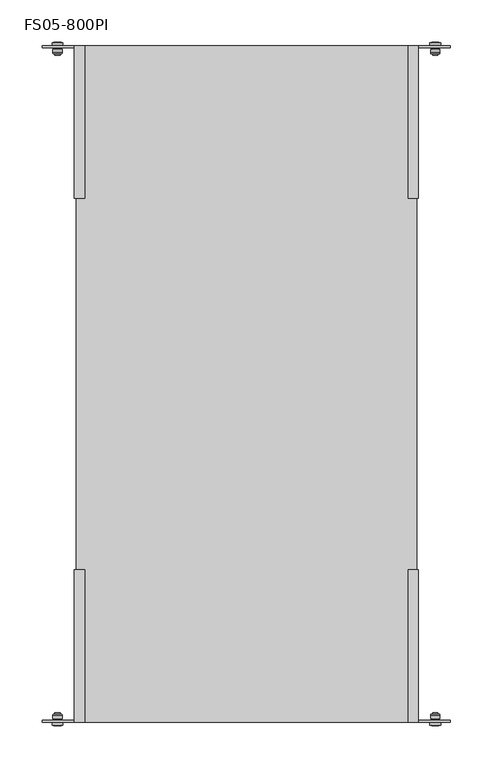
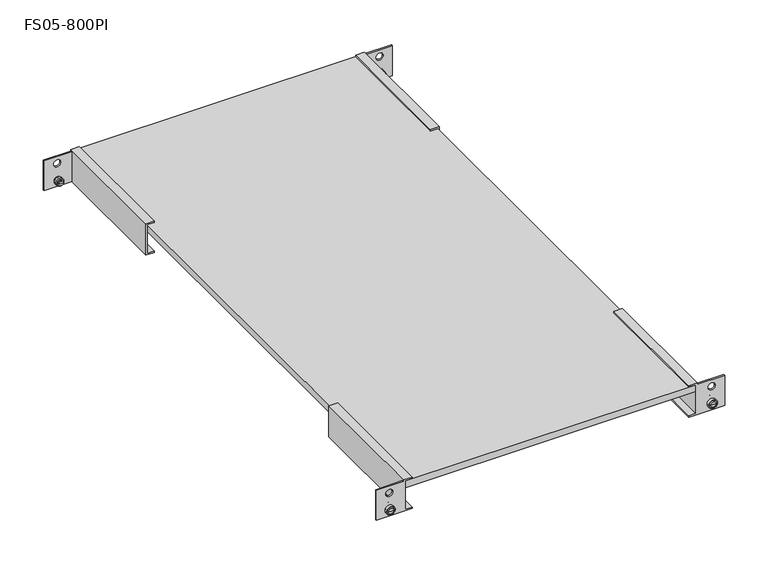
"""IFC4 building model written with IfcOpenShell, lengths in millimetres: proxy geometry, Полки стационарные универсальные : FS05-800PI."""

from ifc_helpers import new_model, si_unit, point, frame, origin, place, context, project, spatial, polyline, circle_curve, ellipse_curve, trimmed, outline, extrude, source, transform, mapped, element, save
from ifc_brep_helpers import plane_surface, cylinder_surface, revolved_surface, advanced_brep


def fs05_800pi_de279b3e(model_context):
    return source(origin(), model_context, "Body", "SolidModel", [
        advanced_brep(
        [(223.4822805, 404.3499926, 10.0), (219.9883481, 404.3499926, 10.0), (226.9762128, 404.3499926, 10.0), (226.4822791, 388.7499968, 10.0), (220.4822818, 388.7499968, 10.0), (223.4822805, 388.7499968, 10.0), (226.4822791, 390.7999942, 10.0), (220.4822818, 390.7999942, 10.0), (227.9855464, 390.7999942, 10.0), (218.9790145, 390.7999942, 10.0), (228.9822767, 391.7967245, 10.0), (217.9822842, 391.7967245, 10.0), (228.9822767, 395.8, 10.0), (217.9822842, 395.8, 10.0), (227.6556322, 398.0, 10.0), (219.3089288, 398.0, 10.0), (227.6556322, 400.0, 10.0), (219.3089288, 400.0, 10.0), (229.732282, 400.0, 10.0), (217.232279, 400.0, 10.0), (229.732282, 403.5000006, 10.0), (217.232279, 403.5000006, 10.0), (228.8604456, 403.5000006, 10.0), (218.1041154, 403.5000006, 10.0)],
        [
            (0, 1),
            (1, 2, circle_curve(frame((223.4822805, 404.3499926, 10.0), z_axis=(0.0, 1.0, 0.0), x_axis=(-1.0, 0.0, 0.0)), 3.4939324)),
            (2, 0),
            (2, 1, circle_curve(frame((223.4822805, 404.3499926, 10.0), z_axis=(0.0, 1.0, 0.0), x_axis=(-1.0, 0.0, 0.0)), 3.4939324)),
            (3, 4, circle_curve(frame((223.4822805, 388.7499968, 10.0), z_axis=(0.0, -1.0, 0.0), x_axis=(-1.0, 0.0, 0.0)), 2.9999986)),
            (4, 5),
            (5, 3),
            (4, 3, circle_curve(frame((223.4822805, 388.7499968, 10.0), z_axis=(0.0, -1.0, 0.0), x_axis=(-1.0, 0.0, 0.0)), 2.9999986)),
            (6, 7, circle_curve(frame((223.4822805, 390.7999942, 10.0), z_axis=(0.0, -1.0, 0.0), x_axis=(-1.0, 0.0, 0.0)), 2.9999986)),
            (7, 4),
            (3, 6),
            (7, 6, circle_curve(frame((223.4822805, 390.7999942, 10.0), z_axis=(0.0, -1.0, 0.0), x_axis=(-1.0, 0.0, 0.0)), 2.9999986)),
            (8, 9, circle_curve(frame((223.4822805, 390.7999942, 10.0), z_axis=(0.0, -1.0, 0.0), x_axis=(-1.0, 0.0, 0.0)), 4.503266)),
            (9, 7),
            (6, 8),
            (9, 8, circle_curve(frame((223.4822805, 390.7999942, 10.0), z_axis=(0.0, -1.0, 0.0), x_axis=(-1.0, 0.0, 0.0)), 4.503266)),
            (10, 11, circle_curve(frame((223.4822805, 391.7967245, 10.0), z_axis=(0.0, -1.0, 0.0), x_axis=(-1.0, 0.0, 0.0)), 5.4999962)),
            (11, 9, circle_curve(frame((218.9790145, 391.7967245, 10.0), z_axis=(0.0, 0.0, 1.0), x_axis=(1.0, 0.0, 0.0)), 0.9967303)),
            (8, 10, circle_curve(frame((227.9855464, 391.7967245, 10.0), z_axis=(0.0, 0.0, 1.0), x_axis=(-1.0, 0.0, 0.0)), 0.9967303)),
            (11, 10, circle_curve(frame((223.4822805, 391.7967245, 10.0), z_axis=(0.0, -1.0, 0.0), x_axis=(-1.0, 0.0, 0.0)), 5.4999962)),
            (12, 13, circle_curve(frame((223.4822805, 395.8, 10.0), z_axis=(0.0, -1.0, 0.0), x_axis=(-1.0, 0.0, 0.0)), 5.4999962)),
            (13, 11),
            (10, 12),
            (13, 12, circle_curve(frame((223.4822805, 395.8, 10.0), z_axis=(0.0, -1.0, 0.0), x_axis=(-1.0, 0.0, 0.0)), 5.4999962)),
            (14, 15, circle_curve(frame((223.4822805, 398.0, 10.0), z_axis=(0.0, -1.0, 0.0), x_axis=(-1.0, 0.0, 0.0)), 4.1733517)),
            (15, 13, circle_curve(frame((217.9822789, 397.3, 10.0), z_axis=(0.0, 0.0, -1.0), x_axis=(1.0, 0.0, 0.0)), 1.5)),
            (12, 14, circle_curve(frame((228.9822821, 397.3, 10.0), z_axis=(0.0, 0.0, -1.0), x_axis=(-1.0, 0.0, 0.0)), 1.5)),
            (15, 14, circle_curve(frame((223.4822805, 398.0, 10.0), z_axis=(0.0, -1.0, 0.0), x_axis=(-1.0, 0.0, 0.0)), 4.1733517)),
            (16, 17, circle_curve(frame((223.4822805, 400.0, 10.0), z_axis=(0.0, -1.0, 0.0), x_axis=(-1.0, 0.0, 0.0)), 4.1733517)),
            (17, 15),
            (14, 16),
            (17, 16, circle_curve(frame((223.4822805, 400.0, 10.0), z_axis=(0.0, -1.0, 0.0), x_axis=(-1.0, 0.0, 0.0)), 4.1733517)),
            (18, 19, circle_curve(frame((223.4822805, 400.0, 10.0), z_axis=(0.0, -1.0, 0.0), x_axis=(-1.0, 0.0, 0.0)), 6.2500015)),
            (19, 17),
            (16, 18),
            (19, 18, circle_curve(frame((223.4822805, 400.0, 10.0), z_axis=(0.0, -1.0, 0.0), x_axis=(-1.0, 0.0, 0.0)), 6.2500015)),
            (20, 21, circle_curve(frame((223.4822805, 403.5000006, 10.0), z_axis=(0.0, -1.0, 0.0), x_axis=(-1.0, 0.0, 0.0)), 6.2500015)),
            (21, 19),
            (18, 20),
            (21, 20, circle_curve(frame((223.4822805, 403.5000006, 10.0), z_axis=(0.0, -1.0, 0.0), x_axis=(-1.0, 0.0, 0.0)), 6.2500015)),
            (22, 23, circle_curve(frame((223.4822805, 403.5000006, 10.0), z_axis=(0.0, -1.0, 0.0), x_axis=(-1.0, 0.0, 0.0)), 5.3781651)),
            (23, 21),
            (20, 22),
            (23, 22, circle_curve(frame((223.4822805, 403.5000006, 10.0), z_axis=(0.0, -1.0, 0.0), x_axis=(-1.0, 0.0, 0.0)), 5.3781651)),
            (1, 23, circle_curve(frame((219.9822789, 401.85, 10.0), z_axis=(0.0, 0.0, 1.0), x_axis=(1.0, 0.0, 0.0)), 2.5)),
            (22, 2, circle_curve(frame((226.9822821, 401.85, 10.0), z_axis=(0.0, 0.0, 1.0), x_axis=(-1.0, 0.0, 0.0)), 2.5)),
        ],
        [
            plane_surface(frame((223.4822805, 404.3499926, 10.0), z_axis=(0.0, 1.0, 0.0), x_axis=(-1.0, 0.0, 0.0))),
            plane_surface(frame((223.4822805, 388.7499968, 10.0), z_axis=(0.0, -1.0, 0.0), x_axis=(-1.0, 0.0, 0.0))),
            cylinder_surface(frame((223.4822805, -2209.0581012, 10.0), z_axis=(0.0, 1.0, 0.0), x_axis=(-1.0, 0.0, 0.0)), 2.9999986),
            plane_surface(frame((223.4822805, 390.7999942, 10.0), z_axis=(0.0, -1.0, 0.0), x_axis=(-1.0, 0.0, 0.0))),
            revolved_surface(trimmed(ellipse_curve(frame((218.9790145, 391.7967245, 10.0), z_axis=(0.0, 0.0, -1.0), x_axis=(1.0, 0.0, 0.0)), 0.9967303, 0.9967303), [point((218.9790145, 390.7999942, 10.0))], [point((217.9822842, 391.7967245, 10.0))], True, "CARTESIAN"), (223.4822805, -2209.0581012, 10.0), (0.0, 1.0, 0.0)),
            cylinder_surface(frame((223.4822805, -2209.0581012, 10.0), z_axis=(0.0, 1.0, 0.0), x_axis=(-1.0, 0.0, 0.0)), 5.4999962),
            revolved_surface(trimmed(ellipse_curve(frame((217.9822789, 397.3, 10.0), z_axis=(0.0, 0.0, 1.0), x_axis=(1.0, 0.0, 0.0)), 1.5, 1.5), [point((217.9822842, 395.8, 10.0))], [point((219.3089288, 398.0, 10.0))], True, "CARTESIAN"), (223.4822805, -2209.0581012, 10.0), (0.0, 1.0, 0.0)),
            cylinder_surface(frame((223.4822805, -2209.0581012, 10.0), z_axis=(0.0, 1.0, 0.0), x_axis=(-1.0, 0.0, 0.0)), 4.1733517),
            plane_surface(frame((223.4822805, 400.0, 10.0), z_axis=(0.0, -1.0, 0.0), x_axis=(-1.0, 0.0, 0.0))),
            cylinder_surface(frame((223.4822805, -2209.0581012, 10.0), z_axis=(0.0, 1.0, 0.0), x_axis=(-1.0, 0.0, 0.0)), 6.2500015),
            plane_surface(frame((223.4822805, 403.5000006, 10.0), z_axis=(0.0, 1.0, 0.0), x_axis=(-1.0, 0.0, 0.0))),
            revolved_surface(trimmed(ellipse_curve(frame((219.9822789, 401.85, 10.0), z_axis=(0.0, 0.0, -1.0), x_axis=(1.0, 0.0, 0.0)), 2.5, 2.5), [point((218.1041154, 403.5000006, 10.0))], [point((219.9883481, 404.3499926, 10.0))], True, "CARTESIAN"), (223.4822805, -2209.0581012, 10.0), (0.0, 1.0, 0.0)),
        ],
        [
            (0, [[1, 2, 3]]),
            (0, [[-3, 4, -1]]),
            (1, [[5, 6, 7]]),
            (1, [[8, -7, -6]]),
            (2, [[9, 10, -5, 11]]),
            (2, [[12, -11, -8, -10]]),
            (3, [[13, 14, -9, 15]]),
            (3, [[16, -15, -12, -14]]),
            (4, [[17, 18, -13, 19]]),
            (4, [[20, -19, -16, -18]]),
            (5, [[21, 22, -17, 23]]),
            (5, [[24, -23, -20, -22]]),
            (6, [[25, 26, -21, 27]]),
            (6, [[28, -27, -24, -26]]),
            (7, [[29, 30, -25, 31]]),
            (7, [[32, -31, -28, -30]]),
            (8, [[33, 34, -29, 35]]),
            (8, [[36, -35, -32, -34]]),
            (9, [[37, 38, -33, 39]]),
            (9, [[40, -39, -36, -38]]),
            (10, [[41, 42, -37, 43]]),
            (10, [[44, -43, -40, -42]]),
            (11, [[-2, 45, -41, 46]]),
            (11, [[-4, -46, -44, -45]]),
        ],
    ),
        advanced_brep(
        [(-223.4822805, 404.3499926, 10.0), (-226.9762128, 404.3499926, 10.0), (-219.9883481, 404.3499926, 10.0), (-220.4822818, 388.7499968, 10.0), (-226.4822791, 388.7499968, 10.0), (-223.4822805, 388.7499968, 10.0), (-220.4822818, 390.7999942, 10.0), (-226.4822791, 390.7999942, 10.0), (-218.9790145, 390.7999942, 10.0), (-227.9855464, 390.7999942, 10.0), (-217.9822842, 391.7967245, 10.0), (-228.9822767, 391.7967245, 10.0), (-217.9822842, 395.8, 10.0), (-228.9822767, 395.8, 10.0), (-219.3089288, 398.0, 10.0), (-227.6556322, 398.0, 10.0), (-219.3089288, 400.0, 10.0), (-227.6556322, 400.0, 10.0), (-217.232279, 400.0, 10.0), (-229.732282, 400.0, 10.0), (-217.232279, 403.5000006, 10.0), (-229.732282, 403.5000006, 10.0), (-218.1041154, 403.5000006, 10.0), (-228.8604456, 403.5000006, 10.0)],
        [
            (0, 1),
            (1, 2, circle_curve(frame((-223.4822805, 404.3499926, 10.0), z_axis=(0.0, 1.0, 0.0), x_axis=(-1.0, 0.0, 0.0)), 3.4939324)),
            (2, 0),
            (2, 1, circle_curve(frame((-223.4822805, 404.3499926, 10.0), z_axis=(0.0, 1.0, 0.0), x_axis=(-1.0, 0.0, 0.0)), 3.4939324)),
            (3, 4, circle_curve(frame((-223.4822805, 388.7499968, 10.0), z_axis=(0.0, -1.0, 0.0), x_axis=(-1.0, 0.0, 0.0)), 2.9999986)),
            (4, 5),
            (5, 3),
            (4, 3, circle_curve(frame((-223.4822805, 388.7499968, 10.0), z_axis=(0.0, -1.0, 0.0), x_axis=(-1.0, 0.0, 0.0)), 2.9999986)),
            (6, 7, circle_curve(frame((-223.4822805, 390.7999942, 10.0), z_axis=(0.0, -1.0, 0.0), x_axis=(-1.0, 0.0, 0.0)), 2.9999986)),
            (7, 4),
            (3, 6),
            (7, 6, circle_curve(frame((-223.4822805, 390.7999942, 10.0), z_axis=(0.0, -1.0, 0.0), x_axis=(-1.0, 0.0, 0.0)), 2.9999986)),
            (8, 9, circle_curve(frame((-223.4822805, 390.7999942, 10.0), z_axis=(0.0, -1.0, 0.0), x_axis=(-1.0, 0.0, 0.0)), 4.503266)),
            (9, 7),
            (6, 8),
            (9, 8, circle_curve(frame((-223.4822805, 390.7999942, 10.0), z_axis=(0.0, -1.0, 0.0), x_axis=(-1.0, 0.0, 0.0)), 4.503266)),
            (10, 11, circle_curve(frame((-223.4822805, 391.7967245, 10.0), z_axis=(0.0, -1.0, 0.0), x_axis=(-1.0, 0.0, 0.0)), 5.4999962)),
            (11, 9, circle_curve(frame((-227.9855464, 391.7967245, 10.0), z_axis=(0.0, 0.0, 1.0), x_axis=(1.0, 0.0, 0.0)), 0.9967303)),
            (8, 10, circle_curve(frame((-218.9790145, 391.7967245, 10.0), z_axis=(0.0, 0.0, 1.0), x_axis=(-1.0, 0.0, 0.0)), 0.9967303)),
            (11, 10, circle_curve(frame((-223.4822805, 391.7967245, 10.0), z_axis=(0.0, -1.0, 0.0), x_axis=(-1.0, 0.0, 0.0)), 5.4999962)),
            (12, 13, circle_curve(frame((-223.4822805, 395.8, 10.0), z_axis=(0.0, -1.0, 0.0), x_axis=(-1.0, 0.0, 0.0)), 5.4999962)),
            (13, 11),
            (10, 12),
            (13, 12, circle_curve(frame((-223.4822805, 395.8, 10.0), z_axis=(0.0, -1.0, 0.0), x_axis=(-1.0, 0.0, 0.0)), 5.4999962)),
            (14, 15, circle_curve(frame((-223.4822805, 398.0, 10.0), z_axis=(0.0, -1.0, 0.0), x_axis=(-1.0, 0.0, 0.0)), 4.1733517)),
            (15, 13, circle_curve(frame((-228.9822821, 397.3, 10.0), z_axis=(0.0, 0.0, -1.0), x_axis=(1.0, 0.0, 0.0)), 1.5)),
            (12, 14, circle_curve(frame((-217.9822789, 397.3, 10.0), z_axis=(0.0, 0.0, -1.0), x_axis=(-1.0, 0.0, 0.0)), 1.5)),
            (15, 14, circle_curve(frame((-223.4822805, 398.0, 10.0), z_axis=(0.0, -1.0, 0.0), x_axis=(-1.0, 0.0, 0.0)), 4.1733517)),
            (16, 17, circle_curve(frame((-223.4822805, 400.0, 10.0), z_axis=(0.0, -1.0, 0.0), x_axis=(-1.0, 0.0, 0.0)), 4.1733517)),
            (17, 15),
            (14, 16),
            (17, 16, circle_curve(frame((-223.4822805, 400.0, 10.0), z_axis=(0.0, -1.0, 0.0), x_axis=(-1.0, 0.0, 0.0)), 4.1733517)),
            (18, 19, circle_curve(frame((-223.4822805, 400.0, 10.0), z_axis=(0.0, -1.0, 0.0), x_axis=(-1.0, 0.0, 0.0)), 6.2500015)),
            (19, 17),
            (16, 18),
            (19, 18, circle_curve(frame((-223.4822805, 400.0, 10.0), z_axis=(0.0, -1.0, 0.0), x_axis=(-1.0, 0.0, 0.0)), 6.2500015)),
            (20, 21, circle_curve(frame((-223.4822805, 403.5000006, 10.0), z_axis=(0.0, -1.0, 0.0), x_axis=(-1.0, 0.0, 0.0)), 6.2500015)),
            (21, 19),
            (18, 20),
            (21, 20, circle_curve(frame((-223.4822805, 403.5000006, 10.0), z_axis=(0.0, -1.0, 0.0), x_axis=(-1.0, 0.0, 0.0)), 6.2500015)),
            (22, 23, circle_curve(frame((-223.4822805, 403.5000006, 10.0), z_axis=(0.0, -1.0, 0.0), x_axis=(-1.0, 0.0, 0.0)), 5.3781651)),
            (23, 21),
            (20, 22),
            (23, 22, circle_curve(frame((-223.4822805, 403.5000006, 10.0), z_axis=(0.0, -1.0, 0.0), x_axis=(-1.0, 0.0, 0.0)), 5.3781651)),
            (1, 23, circle_curve(frame((-226.9822821, 401.85, 10.0), z_axis=(0.0, 0.0, 1.0), x_axis=(1.0, 0.0, 0.0)), 2.5)),
            (22, 2, circle_curve(frame((-219.9822789, 401.85, 10.0), z_axis=(0.0, 0.0, 1.0), x_axis=(-1.0, 0.0, 0.0)), 2.5)),
        ],
        [
            plane_surface(frame((-223.4822805, 404.3499926, 10.0), z_axis=(0.0, 1.0, 0.0), x_axis=(-1.0, 0.0, 0.0))),
            plane_surface(frame((-223.4822805, 388.7499968, 10.0), z_axis=(0.0, -1.0, 0.0), x_axis=(-1.0, 0.0, 0.0))),
            cylinder_surface(frame((-223.4822805, -2209.0581012, 10.0), z_axis=(0.0, 1.0, 0.0), x_axis=(-1.0, 0.0, 0.0)), 2.9999986),
            plane_surface(frame((-223.4822805, 390.7999942, 10.0), z_axis=(0.0, -1.0, 0.0), x_axis=(-1.0, 0.0, 0.0))),
            revolved_surface(trimmed(ellipse_curve(frame((-227.9855464, 391.7967245, 10.0), z_axis=(0.0, 0.0, -1.0), x_axis=(1.0, 0.0, 0.0)), 0.9967303, 0.9967303), [point((-227.9855464, 390.7999942, 10.0))], [point((-228.9822767, 391.7967245, 10.0))], True, "CARTESIAN"), (-223.4822805, -2209.0581012, 10.0), (0.0, 1.0, 0.0)),
            cylinder_surface(frame((-223.4822805, -2209.0581012, 10.0), z_axis=(0.0, 1.0, 0.0), x_axis=(-1.0, 0.0, 0.0)), 5.4999962),
            revolved_surface(trimmed(ellipse_curve(frame((-228.9822821, 397.3, 10.0), z_axis=(0.0, 0.0, 1.0), x_axis=(1.0, 0.0, 0.0)), 1.5, 1.5), [point((-228.9822767, 395.8, 10.0))], [point((-227.6556322, 398.0, 10.0))], True, "CARTESIAN"), (-223.4822805, -2209.0581012, 10.0), (0.0, 1.0, 0.0)),
            cylinder_surface(frame((-223.4822805, -2209.0581012, 10.0), z_axis=(0.0, 1.0, 0.0), x_axis=(-1.0, 0.0, 0.0)), 4.1733517),
            plane_surface(frame((-223.4822805, 400.0, 10.0), z_axis=(0.0, -1.0, 0.0), x_axis=(-1.0, 0.0, 0.0))),
            cylinder_surface(frame((-223.4822805, -2209.0581012, 10.0), z_axis=(0.0, 1.0, 0.0), x_axis=(-1.0, 0.0, 0.0)), 6.2500015),
            plane_surface(frame((-223.4822805, 403.5000006, 10.0), z_axis=(0.0, 1.0, 0.0), x_axis=(-1.0, 0.0, 0.0))),
            revolved_surface(trimmed(ellipse_curve(frame((-226.9822821, 401.85, 10.0), z_axis=(0.0, 0.0, -1.0), x_axis=(1.0, 0.0, 0.0)), 2.5, 2.5), [point((-228.8604456, 403.5000006, 10.0))], [point((-226.9762128, 404.3499926, 10.0))], True, "CARTESIAN"), (-223.4822805, -2209.0581012, 10.0), (0.0, 1.0, 0.0)),
        ],
        [
            (0, [[1, 2, 3]]),
            (0, [[-3, 4, -1]]),
            (1, [[5, 6, 7]]),
            (1, [[8, -7, -6]]),
            (2, [[9, 10, -5, 11]]),
            (2, [[12, -11, -8, -10]]),
            (3, [[13, 14, -9, 15]]),
            (3, [[16, -15, -12, -14]]),
            (4, [[17, 18, -13, 19]]),
            (4, [[20, -19, -16, -18]]),
            (5, [[21, 22, -17, 23]]),
            (5, [[24, -23, -20, -22]]),
            (6, [[25, 26, -21, 27]]),
            (6, [[28, -27, -24, -26]]),
            (7, [[29, 30, -25, 31]]),
            (7, [[32, -31, -28, -30]]),
            (8, [[33, 34, -29, 35]]),
            (8, [[36, -35, -32, -34]]),
            (9, [[37, 38, -33, 39]]),
            (9, [[40, -39, -36, -38]]),
            (10, [[41, 42, -37, 43]]),
            (10, [[44, -43, -40, -42]]),
            (11, [[-2, 45, -41, 46]]),
            (11, [[-4, -46, -44, -45]]),
        ],
    ),
        advanced_brep(
        [(-223.4822805, -404.3499926, 10.0), (-219.9883481, -404.3499926, 10.0), (-226.9762128, -404.3499926, 10.0), (-226.4822791, -388.7499968, 10.0), (-220.4822818, -388.7499968, 10.0), (-223.4822805, -388.7499968, 10.0), (-226.4822791, -390.7999942, 10.0), (-220.4822818, -390.7999942, 10.0), (-227.9855464, -390.7999942, 10.0), (-218.9790145, -390.7999942, 10.0), (-228.9822767, -391.7967245, 10.0), (-217.9822842, -391.7967245, 10.0), (-228.9822767, -395.8, 10.0), (-217.9822842, -395.8, 10.0), (-227.6556322, -398.0, 10.0), (-219.3089288, -398.0, 10.0), (-227.6556322, -400.0, 10.0), (-219.3089288, -400.0, 10.0), (-229.732282, -400.0, 10.0), (-217.232279, -400.0, 10.0), (-229.732282, -403.5000006, 10.0), (-217.232279, -403.5000006, 10.0), (-228.8604456, -403.5000006, 10.0), (-218.1041154, -403.5000006, 10.0)],
        [
            (0, 1),
            (1, 2, circle_curve(frame((-223.4822805, -404.3499926, 10.0), z_axis=(0.0, -1.0, 0.0), x_axis=(1.0, 0.0, 0.0)), 3.4939324)),
            (2, 0),
            (2, 1, circle_curve(frame((-223.4822805, -404.3499926, 10.0), z_axis=(0.0, -1.0, 0.0), x_axis=(1.0, 0.0, 0.0)), 3.4939324)),
            (3, 4, circle_curve(frame((-223.4822805, -388.7499968, 10.0), z_axis=(0.0, 1.0, 0.0), x_axis=(1.0, 0.0, 0.0)), 2.9999986)),
            (4, 5),
            (5, 3),
            (4, 3, circle_curve(frame((-223.4822805, -388.7499968, 10.0), z_axis=(0.0, 1.0, 0.0), x_axis=(1.0, 0.0, 0.0)), 2.9999986)),
            (6, 7, circle_curve(frame((-223.4822805, -390.7999942, 10.0), z_axis=(0.0, 1.0, 0.0), x_axis=(1.0, 0.0, 0.0)), 2.9999986)),
            (7, 4),
            (3, 6),
            (7, 6, circle_curve(frame((-223.4822805, -390.7999942, 10.0), z_axis=(0.0, 1.0, 0.0), x_axis=(1.0, 0.0, 0.0)), 2.9999986)),
            (8, 9, circle_curve(frame((-223.4822805, -390.7999942, 10.0), z_axis=(0.0, 1.0, 0.0), x_axis=(1.0, 0.0, 0.0)), 4.503266)),
            (9, 7),
            (6, 8),
            (9, 8, circle_curve(frame((-223.4822805, -390.7999942, 10.0), z_axis=(0.0, 1.0, 0.0), x_axis=(1.0, 0.0, 0.0)), 4.503266)),
            (10, 11, circle_curve(frame((-223.4822805, -391.7967245, 10.0), z_axis=(0.0, 1.0, 0.0), x_axis=(1.0, 0.0, 0.0)), 5.4999962)),
            (11, 9, circle_curve(frame((-218.9790145, -391.7967245, 10.0), z_axis=(0.0, 0.0, 1.0), x_axis=(-1.0, 0.0, 0.0)), 0.9967303)),
            (8, 10, circle_curve(frame((-227.9855464, -391.7967245, 10.0), z_axis=(0.0, 0.0, 1.0), x_axis=(1.0, 0.0, 0.0)), 0.9967303)),
            (11, 10, circle_curve(frame((-223.4822805, -391.7967245, 10.0), z_axis=(0.0, 1.0, 0.0), x_axis=(1.0, 0.0, 0.0)), 5.4999962)),
            (12, 13, circle_curve(frame((-223.4822805, -395.8, 10.0), z_axis=(0.0, 1.0, 0.0), x_axis=(1.0, 0.0, 0.0)), 5.4999962)),
            (13, 11),
            (10, 12),
            (13, 12, circle_curve(frame((-223.4822805, -395.8, 10.0), z_axis=(0.0, 1.0, 0.0), x_axis=(1.0, 0.0, 0.0)), 5.4999962)),
            (14, 15, circle_curve(frame((-223.4822805, -398.0, 10.0), z_axis=(0.0, 1.0, 0.0), x_axis=(1.0, 0.0, 0.0)), 4.1733517)),
            (15, 13, circle_curve(frame((-217.9822789, -397.3, 10.0), z_axis=(0.0, 0.0, -1.0), x_axis=(-1.0, 0.0, 0.0)), 1.5)),
            (12, 14, circle_curve(frame((-228.9822821, -397.3, 10.0), z_axis=(0.0, 0.0, -1.0), x_axis=(1.0, 0.0, 0.0)), 1.5)),
            (15, 14, circle_curve(frame((-223.4822805, -398.0, 10.0), z_axis=(0.0, 1.0, 0.0), x_axis=(1.0, 0.0, 0.0)), 4.1733517)),
            (16, 17, circle_curve(frame((-223.4822805, -400.0, 10.0), z_axis=(0.0, 1.0, 0.0), x_axis=(1.0, 0.0, 0.0)), 4.1733517)),
            (17, 15),
            (14, 16),
            (17, 16, circle_curve(frame((-223.4822805, -400.0, 10.0), z_axis=(0.0, 1.0, 0.0), x_axis=(1.0, 0.0, 0.0)), 4.1733517)),
            (18, 19, circle_curve(frame((-223.4822805, -400.0, 10.0), z_axis=(0.0, 1.0, 0.0), x_axis=(1.0, 0.0, 0.0)), 6.2500015)),
            (19, 17),
            (16, 18),
            (19, 18, circle_curve(frame((-223.4822805, -400.0, 10.0), z_axis=(0.0, 1.0, 0.0), x_axis=(1.0, 0.0, 0.0)), 6.2500015)),
            (20, 21, circle_curve(frame((-223.4822805, -403.5000006, 10.0), z_axis=(0.0, 1.0, 0.0), x_axis=(1.0, 0.0, 0.0)), 6.2500015)),
            (21, 19),
            (18, 20),
            (21, 20, circle_curve(frame((-223.4822805, -403.5000006, 10.0), z_axis=(0.0, 1.0, 0.0), x_axis=(1.0, 0.0, 0.0)), 6.2500015)),
            (22, 23, circle_curve(frame((-223.4822805, -403.5000006, 10.0), z_axis=(0.0, 1.0, 0.0), x_axis=(1.0, 0.0, 0.0)), 5.3781651)),
            (23, 21),
            (20, 22),
            (23, 22, circle_curve(frame((-223.4822805, -403.5000006, 10.0), z_axis=(0.0, 1.0, 0.0), x_axis=(1.0, 0.0, 0.0)), 5.3781651)),
            (1, 23, circle_curve(frame((-219.9822789, -401.85, 10.0), z_axis=(0.0, 0.0, 1.0), x_axis=(-1.0, 0.0, 0.0)), 2.5)),
            (22, 2, circle_curve(frame((-226.9822821, -401.85, 10.0), z_axis=(0.0, 0.0, 1.0), x_axis=(1.0, 0.0, 0.0)), 2.5)),
        ],
        [
            plane_surface(frame((-223.4822805, -404.3499926, 10.0), z_axis=(0.0, -1.0, 0.0), x_axis=(1.0, 0.0, 0.0))),
            plane_surface(frame((-223.4822805, -388.7499968, 10.0), z_axis=(0.0, 1.0, 0.0), x_axis=(1.0, 0.0, 0.0))),
            cylinder_surface(frame((-223.4822805, 2209.0581012, 10.0), z_axis=(0.0, -1.0, 0.0), x_axis=(1.0, 0.0, 0.0)), 2.9999986),
            plane_surface(frame((-223.4822805, -390.7999942, 10.0), z_axis=(0.0, 1.0, 0.0), x_axis=(1.0, 0.0, 0.0))),
            revolved_surface(trimmed(ellipse_curve(frame((-218.9790145, -391.7967245, 10.0), z_axis=(0.0, 0.0, -1.0), x_axis=(-1.0, 0.0, 0.0)), 0.9967303, 0.9967303), [point((-218.9790145, -390.7999942, 10.0))], [point((-217.9822842, -391.7967245, 10.0))], True, "CARTESIAN"), (-223.4822805, 2209.0581012, 10.0), (0.0, -1.0, 0.0)),
            cylinder_surface(frame((-223.4822805, 2209.0581012, 10.0), z_axis=(0.0, -1.0, 0.0), x_axis=(1.0, 0.0, 0.0)), 5.4999962),
            revolved_surface(trimmed(ellipse_curve(frame((-217.9822789, -397.3, 10.0), z_axis=(0.0, 0.0, 1.0), x_axis=(-1.0, 0.0, 0.0)), 1.5, 1.5), [point((-217.9822842, -395.8, 10.0))], [point((-219.3089288, -398.0, 10.0))], True, "CARTESIAN"), (-223.4822805, 2209.0581012, 10.0), (0.0, -1.0, 0.0)),
            cylinder_surface(frame((-223.4822805, 2209.0581012, 10.0), z_axis=(0.0, -1.0, 0.0), x_axis=(1.0, 0.0, 0.0)), 4.1733517),
            plane_surface(frame((-223.4822805, -400.0, 10.0), z_axis=(0.0, 1.0, 0.0), x_axis=(1.0, 0.0, 0.0))),
            cylinder_surface(frame((-223.4822805, 2209.0581012, 10.0), z_axis=(0.0, -1.0, 0.0), x_axis=(1.0, 0.0, 0.0)), 6.2500015),
            plane_surface(frame((-223.4822805, -403.5000006, 10.0), z_axis=(0.0, -1.0, 0.0), x_axis=(1.0, 0.0, 0.0))),
            revolved_surface(trimmed(ellipse_curve(frame((-219.9822789, -401.85, 10.0), z_axis=(0.0, 0.0, -1.0), x_axis=(-1.0, 0.0, 0.0)), 2.5, 2.5), [point((-218.1041154, -403.5000006, 10.0))], [point((-219.9883481, -404.3499926, 10.0))], True, "CARTESIAN"), (-223.4822805, 2209.0581012, 10.0), (0.0, -1.0, 0.0)),
        ],
        [
            (0, [[1, 2, 3]]),
            (0, [[-3, 4, -1]]),
            (1, [[5, 6, 7]]),
            (1, [[8, -7, -6]]),
            (2, [[9, 10, -5, 11]]),
            (2, [[12, -11, -8, -10]]),
            (3, [[13, 14, -9, 15]]),
            (3, [[16, -15, -12, -14]]),
            (4, [[17, 18, -13, 19]]),
            (4, [[20, -19, -16, -18]]),
            (5, [[21, 22, -17, 23]]),
            (5, [[24, -23, -20, -22]]),
            (6, [[25, 26, -21, 27]]),
            (6, [[28, -27, -24, -26]]),
            (7, [[29, 30, -25, 31]]),
            (7, [[32, -31, -28, -30]]),
            (8, [[33, 34, -29, 35]]),
            (8, [[36, -35, -32, -34]]),
            (9, [[37, 38, -33, 39]]),
            (9, [[40, -39, -36, -38]]),
            (10, [[41, 42, -37, 43]]),
            (10, [[44, -43, -40, -42]]),
            (11, [[-2, 45, -41, 46]]),
            (11, [[-4, -46, -44, -45]]),
        ],
    ),
        advanced_brep(
        [(223.4822805, -404.3499926, 10.0), (226.9762128, -404.3499926, 10.0), (219.9883481, -404.3499926, 10.0), (220.4822818, -388.7499968, 10.0), (226.4822791, -388.7499968, 10.0), (223.4822805, -388.7499968, 10.0), (220.4822818, -390.7999942, 10.0), (226.4822791, -390.7999942, 10.0), (218.9790145, -390.7999942, 10.0), (227.9855464, -390.7999942, 10.0), (217.9822842, -391.7967245, 10.0), (228.9822767, -391.7967245, 10.0), (217.9822842, -395.8, 10.0), (228.9822767, -395.8, 10.0), (219.3089288, -398.0, 10.0), (227.6556322, -398.0, 10.0), (219.3089288, -400.0, 10.0), (227.6556322, -400.0, 10.0), (217.232279, -400.0, 10.0), (229.732282, -400.0, 10.0), (217.232279, -403.5000006, 10.0), (229.732282, -403.5000006, 10.0), (218.1041154, -403.5000006, 10.0), (228.8604456, -403.5000006, 10.0)],
        [
            (0, 1),
            (1, 2, circle_curve(frame((223.4822805, -404.3499926, 10.0), z_axis=(0.0, -1.0, 0.0), x_axis=(1.0, 0.0, 0.0)), 3.4939324)),
            (2, 0),
            (2, 1, circle_curve(frame((223.4822805, -404.3499926, 10.0), z_axis=(0.0, -1.0, 0.0), x_axis=(1.0, 0.0, 0.0)), 3.4939324)),
            (3, 4, circle_curve(frame((223.4822805, -388.7499968, 10.0), z_axis=(0.0, 1.0, 0.0), x_axis=(1.0, 0.0, 0.0)), 2.9999986)),
            (4, 5),
            (5, 3),
            (4, 3, circle_curve(frame((223.4822805, -388.7499968, 10.0), z_axis=(0.0, 1.0, 0.0), x_axis=(1.0, 0.0, 0.0)), 2.9999986)),
            (6, 7, circle_curve(frame((223.4822805, -390.7999942, 10.0), z_axis=(0.0, 1.0, 0.0), x_axis=(1.0, 0.0, 0.0)), 2.9999986)),
            (7, 4),
            (3, 6),
            (7, 6, circle_curve(frame((223.4822805, -390.7999942, 10.0), z_axis=(0.0, 1.0, 0.0), x_axis=(1.0, 0.0, 0.0)), 2.9999986)),
            (8, 9, circle_curve(frame((223.4822805, -390.7999942, 10.0), z_axis=(0.0, 1.0, 0.0), x_axis=(1.0, 0.0, 0.0)), 4.503266)),
            (9, 7),
            (6, 8),
            (9, 8, circle_curve(frame((223.4822805, -390.7999942, 10.0), z_axis=(0.0, 1.0, 0.0), x_axis=(1.0, 0.0, 0.0)), 4.503266)),
            (10, 11, circle_curve(frame((223.4822805, -391.7967245, 10.0), z_axis=(0.0, 1.0, 0.0), x_axis=(1.0, 0.0, 0.0)), 5.4999962)),
            (11, 9, circle_curve(frame((227.9855464, -391.7967245, 10.0), z_axis=(0.0, 0.0, 1.0), x_axis=(-1.0, 0.0, 0.0)), 0.9967303)),
            (8, 10, circle_curve(frame((218.9790145, -391.7967245, 10.0), z_axis=(0.0, 0.0, 1.0), x_axis=(1.0, 0.0, 0.0)), 0.9967303)),
            (11, 10, circle_curve(frame((223.4822805, -391.7967245, 10.0), z_axis=(0.0, 1.0, 0.0), x_axis=(1.0, 0.0, 0.0)), 5.4999962)),
            (12, 13, circle_curve(frame((223.4822805, -395.8, 10.0), z_axis=(0.0, 1.0, 0.0), x_axis=(1.0, 0.0, 0.0)), 5.4999962)),
            (13, 11),
            (10, 12),
            (13, 12, circle_curve(frame((223.4822805, -395.8, 10.0), z_axis=(0.0, 1.0, 0.0), x_axis=(1.0, 0.0, 0.0)), 5.4999962)),
            (14, 15, circle_curve(frame((223.4822805, -398.0, 10.0), z_axis=(0.0, 1.0, 0.0), x_axis=(1.0, 0.0, 0.0)), 4.1733517)),
            (15, 13, circle_curve(frame((228.9822821, -397.3, 10.0), z_axis=(0.0, 0.0, -1.0), x_axis=(-1.0, 0.0, 0.0)), 1.5)),
            (12, 14, circle_curve(frame((217.9822789, -397.3, 10.0), z_axis=(0.0, 0.0, -1.0), x_axis=(1.0, 0.0, 0.0)), 1.5)),
            (15, 14, circle_curve(frame((223.4822805, -398.0, 10.0), z_axis=(0.0, 1.0, 0.0), x_axis=(1.0, 0.0, 0.0)), 4.1733517)),
            (16, 17, circle_curve(frame((223.4822805, -400.0, 10.0), z_axis=(0.0, 1.0, 0.0), x_axis=(1.0, 0.0, 0.0)), 4.1733517)),
            (17, 15),
            (14, 16),
            (17, 16, circle_curve(frame((223.4822805, -400.0, 10.0), z_axis=(0.0, 1.0, 0.0), x_axis=(1.0, 0.0, 0.0)), 4.1733517)),
            (18, 19, circle_curve(frame((223.4822805, -400.0, 10.0), z_axis=(0.0, 1.0, 0.0), x_axis=(1.0, 0.0, 0.0)), 6.2500015)),
            (19, 17),
            (16, 18),
            (19, 18, circle_curve(frame((223.4822805, -400.0, 10.0), z_axis=(0.0, 1.0, 0.0), x_axis=(1.0, 0.0, 0.0)), 6.2500015)),
            (20, 21, circle_curve(frame((223.4822805, -403.5000006, 10.0), z_axis=(0.0, 1.0, 0.0), x_axis=(1.0, 0.0, 0.0)), 6.2500015)),
            (21, 19),
            (18, 20),
            (21, 20, circle_curve(frame((223.4822805, -403.5000006, 10.0), z_axis=(0.0, 1.0, 0.0), x_axis=(1.0, 0.0, 0.0)), 6.2500015)),
            (22, 23, circle_curve(frame((223.4822805, -403.5000006, 10.0), z_axis=(0.0, 1.0, 0.0), x_axis=(1.0, 0.0, 0.0)), 5.3781651)),
            (23, 21),
            (20, 22),
            (23, 22, circle_curve(frame((223.4822805, -403.5000006, 10.0), z_axis=(0.0, 1.0, 0.0), x_axis=(1.0, 0.0, 0.0)), 5.3781651)),
            (1, 23, circle_curve(frame((226.9822821, -401.85, 10.0), z_axis=(0.0, 0.0, 1.0), x_axis=(-1.0, 0.0, 0.0)), 2.5)),
            (22, 2, circle_curve(frame((219.9822789, -401.85, 10.0), z_axis=(0.0, 0.0, 1.0), x_axis=(1.0, 0.0, 0.0)), 2.5)),
        ],
        [
            plane_surface(frame((223.4822805, -404.3499926, 10.0), z_axis=(0.0, -1.0, 0.0), x_axis=(1.0, 0.0, 0.0))),
            plane_surface(frame((223.4822805, -388.7499968, 10.0), z_axis=(0.0, 1.0, 0.0), x_axis=(1.0, 0.0, 0.0))),
            cylinder_surface(frame((223.4822805, 2209.0581012, 10.0), z_axis=(0.0, -1.0, 0.0), x_axis=(1.0, 0.0, 0.0)), 2.9999986),
            plane_surface(frame((223.4822805, -390.7999942, 10.0), z_axis=(0.0, 1.0, 0.0), x_axis=(1.0, 0.0, 0.0))),
            revolved_surface(trimmed(ellipse_curve(frame((227.9855464, -391.7967245, 10.0), z_axis=(0.0, 0.0, -1.0), x_axis=(-1.0, 0.0, 0.0)), 0.9967303, 0.9967303), [point((227.9855464, -390.7999942, 10.0))], [point((228.9822767, -391.7967245, 10.0))], True, "CARTESIAN"), (223.4822805, 2209.0581012, 10.0), (0.0, -1.0, 0.0)),
            cylinder_surface(frame((223.4822805, 2209.0581012, 10.0), z_axis=(0.0, -1.0, 0.0), x_axis=(1.0, 0.0, 0.0)), 5.4999962),
            revolved_surface(trimmed(ellipse_curve(frame((228.9822821, -397.3, 10.0), z_axis=(0.0, 0.0, 1.0), x_axis=(-1.0, 0.0, 0.0)), 1.5, 1.5), [point((228.9822767, -395.8, 10.0))], [point((227.6556322, -398.0, 10.0))], True, "CARTESIAN"), (223.4822805, 2209.0581012, 10.0), (0.0, -1.0, 0.0)),
            cylinder_surface(frame((223.4822805, 2209.0581012, 10.0), z_axis=(0.0, -1.0, 0.0), x_axis=(1.0, 0.0, 0.0)), 4.1733517),
            plane_surface(frame((223.4822805, -400.0, 10.0), z_axis=(0.0, 1.0, 0.0), x_axis=(1.0, 0.0, 0.0))),
            cylinder_surface(frame((223.4822805, 2209.0581012, 10.0), z_axis=(0.0, -1.0, 0.0), x_axis=(1.0, 0.0, 0.0)), 6.2500015),
            plane_surface(frame((223.4822805, -403.5000006, 10.0), z_axis=(0.0, -1.0, 0.0), x_axis=(1.0, 0.0, 0.0))),
            revolved_surface(trimmed(ellipse_curve(frame((226.9822821, -401.85, 10.0), z_axis=(0.0, 0.0, -1.0), x_axis=(-1.0, 0.0, 0.0)), 2.5, 2.5), [point((228.8604456, -403.5000006, 10.0))], [point((226.9762128, -404.3499926, 10.0))], True, "CARTESIAN"), (223.4822805, 2209.0581012, 10.0), (0.0, -1.0, 0.0)),
        ],
        [
            (0, [[1, 2, 3]]),
            (0, [[-3, 4, -1]]),
            (1, [[5, 6, 7]]),
            (1, [[8, -7, -6]]),
            (2, [[9, 10, -5, 11]]),
            (2, [[12, -11, -8, -10]]),
            (3, [[13, 14, -9, 15]]),
            (3, [[16, -15, -12, -14]]),
            (4, [[17, 18, -13, 19]]),
            (4, [[20, -19, -16, -18]]),
            (5, [[21, 22, -17, 23]]),
            (5, [[24, -23, -20, -22]]),
            (6, [[25, 26, -21, 27]]),
            (6, [[28, -27, -24, -26]]),
            (7, [[29, 30, -25, 31]]),
            (7, [[32, -31, -28, -30]]),
            (8, [[33, 34, -29, 35]]),
            (8, [[36, -35, -32, -34]]),
            (9, [[37, 38, -33, 39]]),
            (9, [[40, -39, -36, -38]]),
            (10, [[41, 42, -37, 43]]),
            (10, [[44, -43, -40, -42]]),
            (11, [[-2, 45, -41, 46]]),
            (11, [[-4, -46, -44, -45]]),
        ],
    ),
        advanced_brep(
        [(-191.5, -400.0, 44.0), (-191.5, -400.0, 46.0), (-203.5, -400.0, 46.0), (-203.5, -400.0, 44.0), (-241.5, -400.0, 44.0), (-241.5, -400.0, 0.0), (-191.5, -400.0, 0.0), (-191.5, -400.0, 2.0), (-201.5, -400.0, 2.0), (-201.5, -400.0, 44.0), (-218.6086696, -400.0, 34.0), (-228.6086696, -400.0, 34.0), (-191.5, -220.0, 44.0), (-201.5, -220.0, 44.0), (-201.5, -220.0, 2.0), (-191.5, -220.0, 2.0), (-191.5, -220.0, 0.0), (-203.5, -220.0, 0.0), (-203.5, -220.0, 46.0), (-191.5, -220.0, 46.0), (-203.5, -398.0, 0.0), (-203.5, -398.0, 44.0), (-241.5, -398.0, 0.0), (-241.5, -398.0, 44.0), (-228.6086696, -398.0, 34.0), (-218.6086696, -398.0, 34.0)],
        [
            (0, 1),
            (1, 2),
            (2, 3),
            (3, 4),
            (4, 5),
            (5, 6),
            (6, 7),
            (7, 8),
            (8, 9),
            (9, 0),
            (10, 11, circle_curve(frame((-223.6086696, -400.0, 34.0), z_axis=(0.0, 1.0, 0.0), x_axis=(1.0, 0.0, 0.0)), 5.0)),
            (11, 10, circle_curve(frame((-223.6086696, -400.0, 34.0), z_axis=(0.0, 1.0, 0.0), x_axis=(1.0, 0.0, 0.0)), 5.0)),
            (12, 13),
            (13, 14),
            (14, 15),
            (15, 16),
            (16, 17),
            (17, 18),
            (18, 19),
            (19, 12),
            (0, 12),
            (19, 1),
            (18, 2),
            (17, 20),
            (20, 21),
            (21, 3),
            (16, 6),
            (5, 22),
            (22, 20),
            (15, 7),
            (14, 8),
            (13, 9),
            (21, 23),
            (23, 4),
            (22, 23),
            (24, 25, circle_curve(frame((-223.6086696, -398.0, 34.0), z_axis=(0.0, -1.0, 0.0), x_axis=(1.0, 0.0, 0.0)), 5.0)),
            (25, 24, circle_curve(frame((-223.6086696, -398.0, 34.0), z_axis=(0.0, -1.0, 0.0), x_axis=(1.0, 0.0, 0.0)), 5.0)),
            (24, 11),
            (10, 25),
        ],
        [
            plane_surface(frame((-191.5, -400.0, 44.0), z_axis=(0.0, -1.0, 0.0), x_axis=(0.0, 0.0, 1.0))),
            plane_surface(frame((-191.5, -220.0, 44.0), z_axis=(0.0, 1.0, 0.0), x_axis=(0.0, 0.0, -1.0))),
            plane_surface(frame((-191.5, -400.0, 44.0), z_axis=(1.0, 0.0, 0.0), x_axis=(0.0, 1.0, 0.0))),
            plane_surface(frame((-191.5, -400.0, 46.0), z_axis=(0.0, 0.0, 1.0), x_axis=(0.0, 1.0, 0.0))),
            plane_surface(frame((-203.5, -400.0, 46.0), z_axis=(-1.0, 0.0, 0.0), x_axis=(0.0, 1.0, 0.0))),
            plane_surface(frame((-203.5, -400.0, 0.0), z_axis=(0.0, 0.0, -1.0), x_axis=(0.0, 1.0, 0.0))),
            plane_surface(frame((-191.5, -400.0, 0.0), z_axis=(1.0, 0.0, 0.0), x_axis=(0.0, 1.0, 0.0))),
            plane_surface(frame((-191.5, -400.0, 2.0), z_axis=(0.0, 0.0, 1.0), x_axis=(0.0, 1.0, 0.0))),
            plane_surface(frame((-201.5, -400.0, 2.0), z_axis=(1.0, 0.0, 0.0), x_axis=(0.0, 1.0, 0.0))),
            plane_surface(frame((-201.5, -400.0, 44.0), z_axis=(0.0, 0.0, -1.0), x_axis=(0.0, 1.0, 0.0))),
            plane_surface(frame((-203.5, 398.0, 44.0), z_axis=(0.0, 0.0, 1.0), x_axis=(1.0, 0.0, 0.0))),
            plane_surface(frame((-203.5, -398.0, 44.0), z_axis=(0.0, 1.0, 0.0), x_axis=(0.0, 0.0, -1.0))),
            plane_surface(frame((-241.5, -398.0, 44.0), z_axis=(-1.0, 0.0, 0.0), x_axis=(0.0, 0.0, -1.0))),
            revolved_surface(polyline([(-218.6086696, -400.0, 34.0), (-218.6086696, -398.0, 34.0)]), (-223.6086696, 400.0, 34.0), (0.0, -1.0, 0.0)),
        ],
        [
            (0, [[1, 2, 3, 4, 5, 6, 7, 8, 9, 10], [11, 12]]),
            (1, [[13, 14, 15, 16, 17, 18, 19, 20]]),
            (2, [[-1, 21, -20, 22]]),
            (3, [[-2, -22, -19, 23]]),
            (4, [[-18, 24, 25, 26, -3, -23]]),
            (5, [[-17, 27, -6, 28, 29, -24]]),
            (6, [[-7, -27, -16, 30]]),
            (7, [[-8, -30, -15, 31]]),
            (8, [[-9, -31, -14, 32]]),
            (9, [[-10, -32, -13, -21]]),
            (10, [[33, 34, -4, -26]]),
            (11, [[-33, -25, -29, 35], [36, 37]]),
            (12, [[-34, -35, -28, -5]]),
            (13, [[38, -11, 39, -36]]),
            (13, [[-38, -37, -39, -12]]),
        ],
    ),
        advanced_brep(
        [(191.5, -400.0, 44.0), (201.5, -400.0, 44.0), (201.5, -400.0, 2.0), (191.5, -400.0, 2.0), (191.5, -400.0, 0.0), (241.5, -400.0, 0.0), (241.5, -400.0, 44.0), (203.5, -400.0, 44.0), (203.5, -400.0, 46.0), (191.5, -400.0, 46.0), (228.6086696, -400.0, 34.0), (218.6086696, -400.0, 34.0), (191.5, -220.0, 44.0), (191.5, -220.0, 46.0), (203.5, -220.0, 46.0), (203.5, -220.0, 0.0), (191.5, -220.0, 0.0), (191.5, -220.0, 2.0), (201.5, -220.0, 2.0), (201.5, -220.0, 44.0), (203.5, -398.0, 0.0), (241.5, -398.0, 0.0), (203.5, -398.0, 44.0), (241.5, -398.0, 44.0), (218.6086696, -398.0, 34.0), (228.6086696, -398.0, 34.0)],
        [
            (0, 1),
            (1, 2),
            (2, 3),
            (3, 4),
            (4, 5),
            (5, 6),
            (6, 7),
            (7, 8),
            (8, 9),
            (9, 0),
            (10, 11, circle_curve(frame((223.6086696, -400.0, 34.0), z_axis=(0.0, 1.0, 0.0), x_axis=(1.0, 0.0, 0.0)), 5.0)),
            (11, 10, circle_curve(frame((223.6086696, -400.0, 34.0), z_axis=(0.0, 1.0, 0.0), x_axis=(1.0, 0.0, 0.0)), 5.0)),
            (12, 13),
            (13, 14),
            (14, 15),
            (15, 16),
            (16, 17),
            (17, 18),
            (18, 19),
            (19, 12),
            (15, 20),
            (20, 21),
            (21, 5),
            (4, 16),
            (0, 12),
            (19, 1),
            (18, 2),
            (17, 3),
            (14, 8),
            (7, 22),
            (22, 20),
            (13, 9),
            (23, 22),
            (6, 23),
            (23, 21),
            (24, 25, circle_curve(frame((223.6086696, -398.0, 34.0), z_axis=(0.0, -1.0, 0.0), x_axis=(1.0, 0.0, 0.0)), 5.0)),
            (25, 24, circle_curve(frame((223.6086696, -398.0, 34.0), z_axis=(0.0, -1.0, 0.0), x_axis=(1.0, 0.0, 0.0)), 5.0)),
            (24, 11),
            (10, 25),
        ],
        [
            plane_surface(frame((-191.5, -400.0, 44.0), z_axis=(0.0, -1.0, 0.0), x_axis=(0.0, 0.0, 1.0))),
            plane_surface(frame((-191.5, -220.0, 44.0), z_axis=(0.0, 1.0, 0.0), x_axis=(0.0, 0.0, -1.0))),
            plane_surface(frame((-203.5, -400.0, 0.0), z_axis=(0.0, 0.0, -1.0), x_axis=(0.0, 1.0, 0.0))),
            plane_surface(frame((191.5, -400.0, 44.0), z_axis=(0.0, 0.0, -1.0), x_axis=(0.0, 1.0, 0.0))),
            plane_surface(frame((201.5, -400.0, 44.0), z_axis=(-1.0, 0.0, 0.0), x_axis=(0.0, 1.0, 0.0))),
            plane_surface(frame((201.5, -400.0, 2.0), z_axis=(0.0, 0.0, 1.0), x_axis=(0.0, 1.0, 0.0))),
            plane_surface(frame((191.5, -400.0, 2.0), z_axis=(-1.0, 0.0, 0.0), x_axis=(0.0, 1.0, 0.0))),
            plane_surface(frame((203.5, -400.0, 0.0), z_axis=(1.0, 0.0, 0.0), x_axis=(0.0, 1.0, 0.0))),
            plane_surface(frame((203.5, -400.0, 46.0), z_axis=(0.0, 0.0, 1.0), x_axis=(0.0, 1.0, 0.0))),
            plane_surface(frame((191.5, -400.0, 46.0), z_axis=(-1.0, 0.0, 0.0), x_axis=(0.0, 1.0, 0.0))),
            plane_surface(frame((-203.5, 398.0, 44.0), z_axis=(0.0, 0.0, 1.0), x_axis=(1.0, 0.0, 0.0))),
            plane_surface(frame((241.5, -398.0, 44.0), z_axis=(0.0, 1.0, 0.0), x_axis=(0.0, 0.0, -1.0))),
            plane_surface(frame((241.5, -400.0, 44.0), z_axis=(1.0, 0.0, 0.0), x_axis=(0.0, 0.0, -1.0))),
            revolved_surface(polyline([(228.6086696, -400.0, 34.0), (228.6086696, -398.0, 34.0)]), (223.6086696, 0.0, 34.0), (0.0, -1.0, 0.0)),
        ],
        [
            (0, [[1, 2, 3, 4, 5, 6, 7, 8, 9, 10], [11, 12]]),
            (1, [[13, 14, 15, 16, 17, 18, 19, 20]]),
            (2, [[-16, 21, 22, 23, -5, 24]]),
            (3, [[-1, 25, -20, 26]]),
            (4, [[-2, -26, -19, 27]]),
            (5, [[-3, -27, -18, 28]]),
            (6, [[-4, -28, -17, -24]]),
            (7, [[-15, 29, -8, 30, 31, -21]]),
            (8, [[-9, -29, -14, 32]]),
            (9, [[-10, -32, -13, -25]]),
            (10, [[33, -30, -7, 34]]),
            (11, [[-33, 35, -22, -31], [36, 37]]),
            (12, [[-34, -6, -23, -35]]),
            (13, [[38, -11, 39, -36]]),
            (13, [[-38, -37, -39, -12]]),
        ],
    ),
        advanced_brep(
        [(-241.5, 398.0, 0.0), (-241.5, 400.0, 0.0), (-191.5, 400.0, 0.0), (-191.5, 220.0, 0.0), (-203.5, 220.0, 0.0), (-203.5, 398.0, 0.0), (-241.5, 398.0, 44.0), (-203.5, 398.0, 44.0), (-203.5, 400.0, 44.0), (-241.5, 400.0, 44.0), (-218.6086696, 398.0, 34.0), (-228.6086696, 398.0, 34.0), (-203.5, 400.0, 46.0), (-191.5, 400.0, 46.0), (-191.5, 400.0, 44.0), (-201.5, 400.0, 44.0), (-201.5, 400.0, 2.0), (-191.5, 400.0, 2.0), (-228.6086696, 400.0, 34.0), (-218.6086696, 400.0, 34.0), (-191.5, 220.0, 44.0), (-191.5, 220.0, 46.0), (-203.5, 220.0, 46.0), (-191.5, 220.0, 2.0), (-201.5, 220.0, 2.0), (-201.5, 220.0, 44.0)],
        [
            (0, 1),
            (1, 2),
            (2, 3),
            (3, 4),
            (4, 5),
            (5, 0),
            (6, 7),
            (7, 8),
            (8, 9),
            (9, 6),
            (6, 0),
            (5, 7),
            (10, 11, circle_curve(frame((-223.6086696, 398.0, 34.0), z_axis=(0.0, 1.0, 0.0), x_axis=(1.0, 0.0, 0.0)), 5.0)),
            (11, 10, circle_curve(frame((-223.6086696, 398.0, 34.0), z_axis=(0.0, 1.0, 0.0), x_axis=(1.0, 0.0, 0.0)), 5.0)),
            (8, 12),
            (12, 13),
            (13, 14),
            (14, 15),
            (15, 16),
            (16, 17),
            (17, 2),
            (1, 9),
            (18, 19, circle_curve(frame((-223.6086696, 400.0, 34.0), z_axis=(0.0, -1.0, 0.0), x_axis=(1.0, 0.0, 0.0)), 5.0)),
            (19, 18, circle_curve(frame((-223.6086696, 400.0, 34.0), z_axis=(0.0, -1.0, 0.0), x_axis=(1.0, 0.0, 0.0)), 5.0)),
            (20, 21),
            (21, 22),
            (22, 4),
            (3, 23),
            (23, 24),
            (24, 25),
            (25, 20),
            (20, 14),
            (13, 21),
            (12, 22),
            (17, 23),
            (16, 24),
            (15, 25),
            (18, 11),
            (10, 19),
        ],
        [
            plane_surface(frame((-203.5, -400.0, 0.0), z_axis=(0.0, 0.0, -1.0), x_axis=(0.0, 1.0, 0.0))),
            plane_surface(frame((-203.5, 398.0, 44.0), z_axis=(0.0, 0.0, 1.0), x_axis=(1.0, 0.0, 0.0))),
            plane_surface(frame((-241.5, 398.0, 44.0), z_axis=(0.0, -1.0, 0.0), x_axis=(0.0, 0.0, -1.0))),
            plane_surface(frame((-203.5, 400.0, 44.0), z_axis=(0.0, 1.0, 0.0), x_axis=(0.0, 0.0, -1.0))),
            plane_surface(frame((-241.5, 400.0, 44.0), z_axis=(-1.0, 0.0, 0.0), x_axis=(0.0, 0.0, -1.0))),
            plane_surface(frame((-191.5, 220.0, 44.0), z_axis=(0.0, -1.0, 0.0), x_axis=(0.0, 0.0, 1.0))),
            plane_surface(frame((-191.5, 220.0, 44.0), z_axis=(1.0, 0.0, 0.0), x_axis=(0.0, 1.0, 0.0))),
            plane_surface(frame((-191.5, 220.0, 46.0), z_axis=(0.0, 0.0, 1.0), x_axis=(0.0, 1.0, 0.0))),
            plane_surface(frame((-203.5, 220.0, 46.0), z_axis=(-1.0, 0.0, 0.0), x_axis=(0.0, 1.0, 0.0))),
            plane_surface(frame((-191.5, 220.0, 0.0), z_axis=(1.0, 0.0, 0.0), x_axis=(0.0, 1.0, 0.0))),
            plane_surface(frame((-191.5, 220.0, 2.0), z_axis=(0.0, 0.0, 1.0), x_axis=(0.0, 1.0, 0.0))),
            plane_surface(frame((-201.5, 220.0, 2.0), z_axis=(1.0, 0.0, 0.0), x_axis=(0.0, 1.0, 0.0))),
            plane_surface(frame((-201.5, 220.0, 44.0), z_axis=(0.0, 0.0, -1.0), x_axis=(0.0, 1.0, 0.0))),
            revolved_surface(polyline([(-218.6086696, 398.0, 34.0), (-218.6086696, 400.0, 34.0)]), (-223.6086696, 400.0, 34.0), (0.0, -1.0, 0.0)),
        ],
        [
            (0, [[1, 2, 3, 4, 5, 6]]),
            (1, [[7, 8, 9, 10]]),
            (2, [[-7, 11, -6, 12], [13, 14]]),
            (3, [[-9, 15, 16, 17, 18, 19, 20, 21, -2, 22], [23, 24]]),
            (4, [[-10, -22, -1, -11]]),
            (5, [[25, 26, 27, -4, 28, 29, 30, 31]]),
            (6, [[-25, 32, -17, 33]]),
            (7, [[-26, -33, -16, 34]]),
            (8, [[-27, -34, -15, -8, -12, -5]]),
            (9, [[-28, -3, -21, 35]]),
            (10, [[-29, -35, -20, 36]]),
            (11, [[-30, -36, -19, 37]]),
            (12, [[-31, -37, -18, -32]]),
            (13, [[38, -13, 39, -23]]),
            (13, [[-38, -24, -39, -14]]),
        ],
    ),
        advanced_brep(
        [(241.5, 400.0, 0.0), (241.5, 398.0, 0.0), (203.5, 398.0, 0.0), (203.5, 220.0, 0.0), (191.5, 220.0, 0.0), (191.5, 400.0, 0.0), (241.5, 400.0, 44.0), (203.5, 400.0, 44.0), (203.5, 398.0, 44.0), (241.5, 398.0, 44.0), (191.5, 400.0, 2.0), (201.5, 400.0, 2.0), (201.5, 400.0, 44.0), (191.5, 400.0, 44.0), (191.5, 400.0, 46.0), (203.5, 400.0, 46.0), (218.6086696, 400.0, 34.0), (228.6086696, 400.0, 34.0), (228.6086696, 398.0, 34.0), (218.6086696, 398.0, 34.0), (191.5, 220.0, 44.0), (201.5, 220.0, 44.0), (201.5, 220.0, 2.0), (191.5, 220.0, 2.0), (203.5, 220.0, 46.0), (191.5, 220.0, 46.0)],
        [
            (0, 1),
            (1, 2),
            (2, 3),
            (3, 4),
            (4, 5),
            (5, 0),
            (6, 7),
            (7, 8),
            (8, 9),
            (9, 6),
            (6, 0),
            (5, 10),
            (10, 11),
            (11, 12),
            (12, 13),
            (13, 14),
            (14, 15),
            (15, 7),
            (16, 17, circle_curve(frame((223.6086696, 400.0, 34.0), z_axis=(0.0, -1.0, 0.0), x_axis=(1.0, 0.0, 0.0)), 5.0)),
            (17, 16, circle_curve(frame((223.6086696, 400.0, 34.0), z_axis=(0.0, -1.0, 0.0), x_axis=(1.0, 0.0, 0.0)), 5.0)),
            (8, 2),
            (1, 9),
            (18, 19, circle_curve(frame((223.6086696, 398.0, 34.0), z_axis=(0.0, 1.0, 0.0), x_axis=(1.0, 0.0, 0.0)), 5.0)),
            (19, 18, circle_curve(frame((223.6086696, 398.0, 34.0), z_axis=(0.0, 1.0, 0.0), x_axis=(1.0, 0.0, 0.0)), 5.0)),
            (20, 21),
            (21, 22),
            (22, 23),
            (23, 4),
            (3, 24),
            (24, 25),
            (25, 20),
            (20, 13),
            (12, 21),
            (11, 22),
            (10, 23),
            (15, 24),
            (14, 25),
            (16, 19),
            (18, 17),
        ],
        [
            plane_surface(frame((-203.5, -400.0, 0.0), z_axis=(0.0, 0.0, -1.0), x_axis=(0.0, 1.0, 0.0))),
            plane_surface(frame((-203.5, 398.0, 44.0), z_axis=(0.0, 0.0, 1.0), x_axis=(1.0, 0.0, 0.0))),
            plane_surface(frame((-203.5, 400.0, 44.0), z_axis=(0.0, 1.0, 0.0), x_axis=(0.0, 0.0, -1.0))),
            plane_surface(frame((203.5, 398.0, 44.0), z_axis=(0.0, -1.0, 0.0), x_axis=(0.0, 0.0, -1.0))),
            plane_surface(frame((241.5, 398.0, 44.0), z_axis=(1.0, 0.0, 0.0), x_axis=(0.0, 0.0, -1.0))),
            plane_surface(frame((-191.5, 220.0, 44.0), z_axis=(0.0, -1.0, 0.0), x_axis=(0.0, 0.0, 1.0))),
            plane_surface(frame((191.5, 220.0, 44.0), z_axis=(0.0, 0.0, -1.0), x_axis=(0.0, 1.0, 0.0))),
            plane_surface(frame((201.5, 220.0, 44.0), z_axis=(-1.0, 0.0, 0.0), x_axis=(0.0, 1.0, 0.0))),
            plane_surface(frame((201.5, 220.0, 2.0), z_axis=(0.0, 0.0, 1.0), x_axis=(0.0, 1.0, 0.0))),
            plane_surface(frame((191.5, 220.0, 2.0), z_axis=(-1.0, 0.0, 0.0), x_axis=(0.0, 1.0, 0.0))),
            plane_surface(frame((203.5, 220.0, 0.0), z_axis=(1.0, 0.0, 0.0), x_axis=(0.0, 1.0, 0.0))),
            plane_surface(frame((203.5, 220.0, 46.0), z_axis=(0.0, 0.0, 1.0), x_axis=(0.0, 1.0, 0.0))),
            plane_surface(frame((191.5, 220.0, 46.0), z_axis=(-1.0, 0.0, 0.0), x_axis=(0.0, 1.0, 0.0))),
            revolved_surface(polyline([(228.6086696, 398.0, 34.0), (228.6086696, 400.0, 34.0)]), (223.6086696, 0.0, 34.0), (0.0, -1.0, 0.0)),
        ],
        [
            (0, [[1, 2, 3, 4, 5, 6]]),
            (1, [[7, 8, 9, 10]]),
            (2, [[-7, 11, -6, 12, 13, 14, 15, 16, 17, 18], [19, 20]]),
            (3, [[-9, 21, -2, 22], [23, 24]]),
            (4, [[-10, -22, -1, -11]]),
            (5, [[25, 26, 27, 28, -4, 29, 30, 31]]),
            (6, [[-25, 32, -15, 33]]),
            (7, [[-26, -33, -14, 34]]),
            (8, [[-27, -34, -13, 35]]),
            (9, [[-28, -35, -12, -5]]),
            (10, [[-29, -3, -21, -8, -18, 36]]),
            (11, [[-30, -36, -17, 37]]),
            (12, [[-31, -37, -16, -32]]),
            (13, [[38, -23, 39, -19]]),
            (13, [[-38, -20, -39, -24]]),
        ],
    ),
        extrude(outline(polyline([(201.5, 400.0), (201.5, -400.0), (-201.5, -400.0), (-201.5, 400.0), (201.5, 400.0)])), frame((0.0, 0.0, 34.0), z_axis=(0.0, 0.0, 1.0), x_axis=(1.0, 0.0, 0.0)), (0.0, 0.0, 1.0), 10.0),
    ])


if __name__ == "__main__":
    model = new_model("IFC4")
    model_context = context("Model", 3, world=origin())
    ifc_project = project(units=[si_unit("LENGTHUNIT", "METRE", prefix="MILLI")], contexts=[model_context])
    site = spatial("IfcSite", under=ifc_project)
    building = spatial("IfcBuilding", under=site)
    placement = place(None, origin())
    fs05_800pi_shape = fs05_800pi_de279b3e(model_context)
    element("IfcBuildingElementProxy", 1, Name="Полки стационарные универсальные : FS05-800PI", ObjectType="Полки стационарные универсальные : FS05-800PI", at=placement, inside=building, context=model_context, shape_type="MappedRepresentation", body=[
        mapped(fs05_800pi_shape, transform((0.0, 0.0, 0.0), x_axis=(1.0, 0.0, 0.0), y_axis=(0.0, 1.0, 0.0), z_axis=(0.0, 0.0, 1.0))),
    ])
    save(model, "model.ifc")
